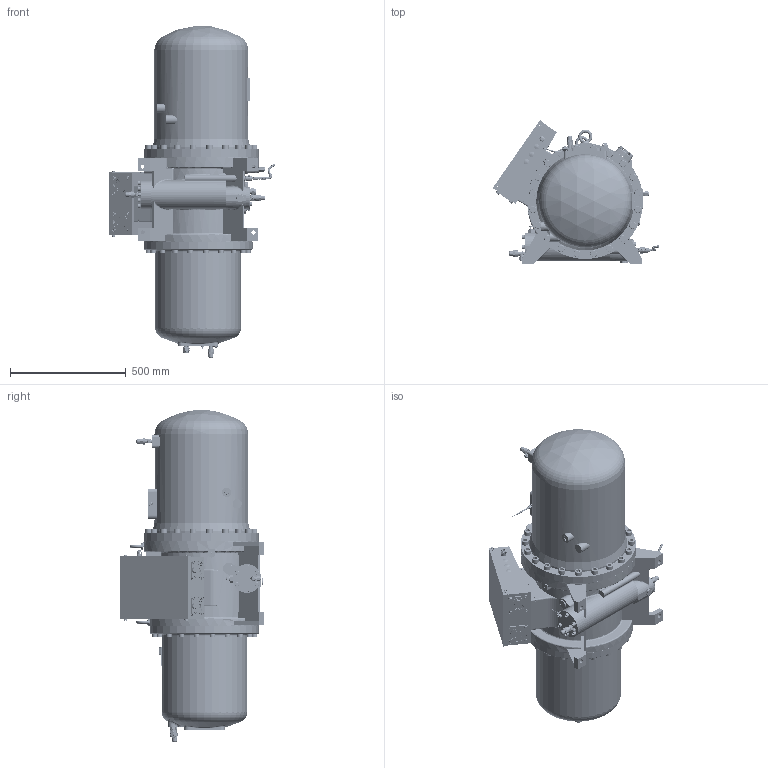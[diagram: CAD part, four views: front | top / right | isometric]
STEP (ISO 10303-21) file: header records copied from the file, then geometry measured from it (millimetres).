
FILE_DESCRIPTION(/* description */ ('STEP AP203'),/* implementation_level */ '2;1');
FILE_NAME(/* name */ 'C:\Users\Ian L Mitchell\Desktop\Hanbell 3D Drawings\Downloaded\RC2-370B outline.STEP',/* time_stamp */ '2017-06-26T15:52:13-04:00',/* author */ ('Ian L Mitchell'),/* organization */ (''),/* preprocessor_version */ 'ST-DEVELOPER v16.5',/* originating_system */ 'Autodesk Inventor 2017',/* authorisation */ '');
FILE_SCHEMA (('AUTOMOTIVE_DESIGN { 1 0 10303 214 3 1 1 }'));
Length unit declared in the file: centimetre
Products named in the file (1): RC2-370B outline
Bounding box: 721.48 x 622.75 x 1436.95 mm (x, y, z)
Surface area: 4477445.2 mm2 (no closed solid volume)
Topology: 0 solids, 304 shells, 2319 faces, 9206 edges, 7029 vertices
Faces by surface type: plane 1351, cylinder 602, torus 174, bspline 101, cone 70, sphere 21
Full cylindrical faces by diameter (mm): 2 x3, 3 x1, 3.3 x3, 4 x1, 4.5 x1, 5 x1, 6.5 x4, 7 x11, 8.5 x2, 10 x3, 11 x12, 11.8 x2, 12 x2, 13 x1, 13.157 x2, 13.7 x2, 14 x6, 14.88 x4, 16 x12, 17 x4, 17.5 x8, 17.7 x1, 18 x16, 19 x1, 20 x6, 20.2 x1, 20.5 x2, 21.5 x1, 22 x4, 22.4 x1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
Entity records: 133552 total; most frequent: CARTESIAN_POINT 59292, DIRECTION 15519, ORIENTED_EDGE 12336, EDGE_CURVE 8709, VERTEX_POINT 6929, AXIS2_PLACEMENT_3D 5502, LINE 4515, VECTOR 4515
